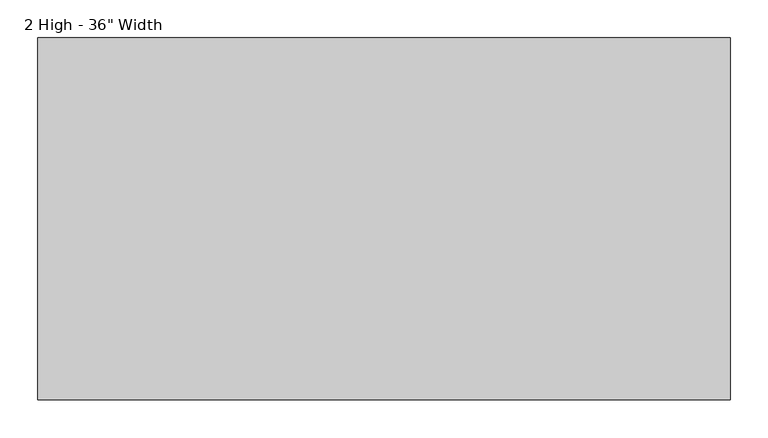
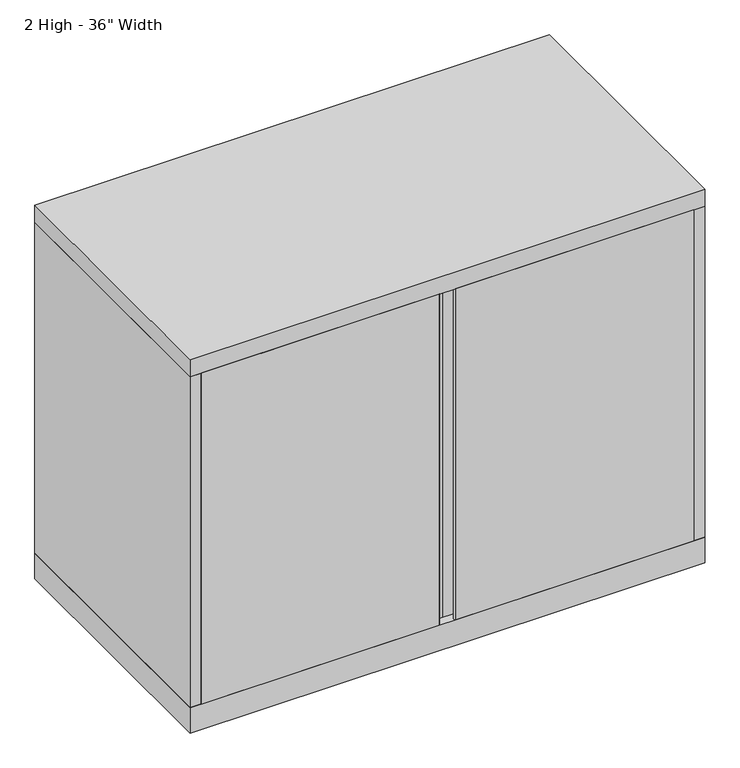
"""IFC4 building model written with IfcOpenShell, lengths in millimetres: furniture geometry."""

import ifcopenshell
import ifcopenshell.guid

model = None  # the IFC model being written
_history = None  # IfcOwnerHistory: only IFC2X3 demands one
_inside = {}  # id of a spatial element -> (the spatial element, [elements in it])
_under = {}  # id of a project, library or spatial element -> (it, [spatial elements below it])
_declared = {}  # id of a project -> (the project, [libraries it declares])
_typed = {}  # id of a type object -> (the type object, [elements of that type])
_made_of = {}  # id of a material, layer set ... -> (it, [elements and type objects made of it])


def new_model(schema):
    """Start an empty IFC model of exactly this schema.

    Asked for "IFC4X3", IfcOpenShell would pick the latest addendum, in which some entities
    have other attributes; the version numbers below select the first issue.
    IFC2X3 requires an IfcOwnerHistory on every rooted entity: one is made here for all.
    """
    global model, _history
    if schema == "IFC4X3":
        model = ifcopenshell.file(schema_version=(4, 3, 0, 0))
    else:
        model = ifcopenshell.file(schema=schema)
    _inside.clear()
    _under.clear()
    _declared.clear()
    _typed.clear()
    _made_of.clear()
    _history = None
    if model.schema == "IFC2X3":
        org = make("IfcOrganization", Name="unknown")
        user = make(
            "IfcPersonAndOrganization",
            ThePerson=make("IfcPerson", FamilyName="unknown"),
            TheOrganization=org,
        )
        app = make(
            "IfcApplication",
            ApplicationDeveloper=org,
            Version="unknown",
            ApplicationFullName="unknown",
            ApplicationIdentifier="unknown",
        )
        _history = make(
            "IfcOwnerHistory",
            OwningUser=user,
            OwningApplication=app,
            ChangeAction="ADDED",
            CreationDate=0,
        )
    return model


def make(cls, **values):
    """One entity of the class cls with the attributes given. An attribute that is None is left unset."""
    return model.create_entity(
        cls, **{name: value for name, value in values.items() if value is not None}
    )


def rooted(cls, **values):
    """An entity with a GlobalId (a new one), such as an element, a storey or a relation."""
    return make(cls, GlobalId=ifcopenshell.guid.new(), OwnerHistory=_history, **values)


def si_unit(unit_type, name, prefix=None):
    """IfcSIUnit, for example si_unit("LENGTHUNIT", "METRE", prefix="MILLI")."""
    return make("IfcSIUnit", UnitType=unit_type, Prefix=prefix, Name=name)


def assignment(units):
    """IfcUnitAssignment: the units of a project."""
    return None if units is None else make("IfcUnitAssignment", Units=units)


def point(xyz):
    """IfcCartesianPoint."""
    return None if xyz is None else make("IfcCartesianPoint", Coordinates=xyz)


def direction(xyz):
    """IfcDirection."""
    return None if xyz is None else make("IfcDirection", DirectionRatios=xyz)


def frame(location, z_axis=None, x_axis=None):
    """IfcAxis2Placement3D, a coordinate frame: its origin and axes. An axis left out is left unset."""
    return make(
        "IfcAxis2Placement3D",
        Location=point(location),
        Axis=direction(z_axis),
        RefDirection=direction(x_axis),
    )


def frame_2d(location, x_axis=None):
    """IfcAxis2Placement2D, a coordinate frame in the plane: its origin and x axis."""
    return make(
        "IfcAxis2Placement2D", Location=point(location), RefDirection=direction(x_axis)
    )


def origin():
    """The frame at (0, 0, 0) with its axes left unset."""
    return frame((0.0, 0.0, 0.0))


def origin_with_axes():
    """The frame at (0, 0, 0) with the z axis (0, 0, 1) and the x axis (1, 0, 0) written out."""
    return frame((0.0, 0.0, 0.0), z_axis=(0.0, 0.0, 1.0), x_axis=(1.0, 0.0, 0.0))


def place(relative_to, where):
    """IfcLocalPlacement: puts the frame where relative to a parent placement (None: the world)."""
    return make(
        "IfcLocalPlacement", PlacementRelTo=relative_to, RelativePlacement=where
    )


def context(
    kind, dimensions, precision=None, world=None, true_north=None, identifier=None
):
    """IfcGeometricRepresentationContext, for example the 3D "Model" context."""
    return make(
        "IfcGeometricRepresentationContext",
        ContextIdentifier=identifier,
        ContextType=kind,
        CoordinateSpaceDimension=dimensions,
        Precision=precision,
        WorldCoordinateSystem=world,
        TrueNorth=true_north,
    )


def project(units=None, contexts=None):
    """IfcProject with its units and contexts."""
    return rooted(
        "IfcProject",
        Name="project",
        RepresentationContexts=contexts,
        UnitsInContext=assignment(units),
    )


def spatial(cls, under=None, at=None, **own):
    """A site, building, storey or space (cls), placed at a placement, below another one or the project."""
    s = rooted(cls, ObjectPlacement=at, **own)
    if under is not None:
        _under.setdefault(under.id(), (under, []))[1].append(s)
    return s


def polyline(points):
    """IfcPolyline through the points."""
    return make("IfcPolyline", Points=[point(p) for p in points])


def circle_curve(where, radius):
    """IfcCircle in the frame where."""
    return make("IfcCircle", Position=where, Radius=radius)


def trimmed(basis, trim1, trim2, sense, master):
    """IfcTrimmedCurve: the piece of a basis curve between two trims."""
    return make(
        "IfcTrimmedCurve",
        BasisCurve=basis,
        Trim1=trim1,
        Trim2=trim2,
        SenseAgreement=sense,
        MasterRepresentation=master,
    )


def segment(curve, same_sense, transition):
    """IfcCompositeCurveSegment."""
    return make(
        "IfcCompositeCurveSegment",
        Transition=transition,
        SameSense=same_sense,
        ParentCurve=curve,
    )


def composite_curve(segments, self_intersect=None):
    """IfcCompositeCurve: segments joined end to end."""
    return make("IfcCompositeCurve", Segments=segments, SelfIntersect=self_intersect)


def outline(outer, holes=None, kind="AREA"):
    """IfcArbitraryClosedProfileDef: a profile drawn as a closed curve; with holes, ...WithVoids."""
    if holes is None:
        return make("IfcArbitraryClosedProfileDef", ProfileType=kind, OuterCurve=outer)
    return make(
        "IfcArbitraryProfileDefWithVoids",
        ProfileType=kind,
        OuterCurve=outer,
        InnerCurves=holes,
    )


def extrude(swept, where, along, depth):
    """IfcExtrudedAreaSolid: the profile swept, set in the frame where, extruded along a direction by depth."""
    return make(
        "IfcExtrudedAreaSolid",
        SweptArea=swept,
        Position=where,
        ExtrudedDirection=direction(along),
        Depth=depth,
    )


def shape(context_of_items, identifier, shape_type, items):
    """IfcShapeRepresentation: the items that make up one representation, for example the "Body"."""
    return make(
        "IfcShapeRepresentation",
        ContextOfItems=context_of_items,
        RepresentationIdentifier=identifier,
        RepresentationType=shape_type,
        Items=items,
    )


def source(mapping_origin, context_of_items, identifier, shape_type, items):
    """IfcRepresentationMap: a shape defined once, which mapped items show again and again."""
    return make(
        "IfcRepresentationMap",
        MappingOrigin=mapping_origin,
        MappedRepresentation=shape(context_of_items, identifier, shape_type, items),
    )


def transform(
    local_origin,
    x_axis=None,
    y_axis=None,
    z_axis=None,
    scale=None,
    scale2=None,
    scale3=None,
    uniform=True,
):
    """IfcCartesianTransformationOperator3D, or its non-uniform kind. x_axis, y_axis, z_axis: its Axis1, 2, 3."""
    if uniform:
        return make(
            "IfcCartesianTransformationOperator3D",
            Axis1=direction(x_axis),
            Axis2=direction(y_axis),
            LocalOrigin=point(local_origin),
            Scale=scale,
            Axis3=direction(z_axis),
        )
    return make(
        "IfcCartesianTransformationOperator3DnonUniform",
        Axis1=direction(x_axis),
        Axis2=direction(y_axis),
        LocalOrigin=point(local_origin),
        Scale=scale,
        Axis3=direction(z_axis),
        Scale2=scale2,
        Scale3=scale3,
    )


def mapped(mapping_source, mapping_target):
    """IfcMappedItem: shows the shape of a source again, moved by a transform."""
    return make(
        "IfcMappedItem", MappingSource=mapping_source, MappingTarget=mapping_target
    )


def made_of(thing, what):
    """Note that an element or type object is made of a material, layer set ...; save() writes the relation."""
    if what is not None:
        _made_of.setdefault(what.id(), (what, []))[1].append(thing)
    return thing


def element(
    cls,
    number,
    at=None,
    inside=None,
    cuts=None,
    type_object=None,
    material=None,
    context=None,
    identifier="Body",
    shape_type=None,
    held_by="IfcProductDefinitionShape",
    body=None,
    shapes=None,
    **own,
):
    """One element of the class cls, such as IfcWall. Its Tag is "e" and its number.

    at: its placement. inside: the storey or other place that contains it. cuts: it is an
    opening in that element (IfcRelVoidsElement). A single representation is given by context,
    identifier, shape_type and body (its items); several are given by shapes. held_by: the class
    of the entity that holds the representations. save() writes the other relations.
    """
    e = rooted(cls, Tag="e%d" % number, ObjectPlacement=at, **own)
    if body is not None:
        shapes = [shape(context, identifier, shape_type, body)]
    if shapes is not None:
        e.Representation = make(held_by, Representations=shapes)
    if inside is not None:
        _inside.setdefault(inside.id(), (inside, []))[1].append(e)
    if cuts is not None:
        rooted(
            "IfcRelVoidsElement", RelatingBuildingElement=cuts, RelatedOpeningElement=e
        )
    if type_object is not None:
        _typed.setdefault(type_object.id(), (type_object, []))[1].append(e)
    return made_of(e, material)


def aggregate(whole, parts):
    """IfcRelAggregates: a whole, such as a stair, and the parts it consists of."""
    return rooted("IfcRelAggregates", RelatingObject=whole, RelatedObjects=parts)


def save(model, path):
    """Write the relations noted so far, then the file.

    IfcRelAggregates (storeys below a building ...), IfcRelContainedInSpatialStructure (elements
    in a storey), IfcRelDefinesByType, IfcRelAssociatesMaterial and IfcRelDeclares: one each for
    every whole, place, type object, material and project.
    """
    for whole, parts in _under.values():
        aggregate(whole, parts)
    for where, things in _inside.values():
        rooted(
            "IfcRelContainedInSpatialStructure",
            RelatedElements=things,
            RelatingStructure=where,
        )
    for kind, things in _typed.values():
        rooted("IfcRelDefinesByType", RelatedObjects=things, RelatingType=kind)
    for what, things in _made_of.values():
        rooted("IfcRelAssociatesMaterial", RelatedObjects=things, RelatingMaterial=what)
    for by, libraries in _declared.values():
        rooted("IfcRelDeclares", RelatingContext=by, RelatedDefinitions=libraries)
    model.write(path)


def furniture_2a13f7a9(model_context):
    return source(origin(), model_context, "Body", "SweptSolid", [
        extrude(outline(composite_curve([segment(polyline([(0.0, -457.2), (0.0, -461.01), (-25.4, -461.01)]), True, "CONTINUOUS"), segment(trimmed(circle_curve(frame_2d((-25.4, -466.0742469)), 5.0642469), [point((-25.4, -461.01))], [point((-25.4, -471.1384938))], True, "CARTESIAN"), True, "CONTINUOUS"), segment(polyline([(-25.4, -471.1384938), (-15.2557531, -471.1384938)]), True, "CONTINUOUS"), segment(trimmed(circle_curve(frame_2d((-15.2557531, -473.6942469)), 2.5557531), [point((-15.2557531, -471.1384938))], [point((-15.2557531, -476.25))], False, "CARTESIAN"), True, "CONTINUOUS"), segment(polyline([(-15.2557531, -476.25), (-436.5625, -476.25), (-436.5625, -457.2), (0.0, -457.2)]), True, "CONTINUOUS")], self_intersect=False)), frame((0.0, 0.0, 47.625), z_axis=(0.0, 0.0, 1.0), x_axis=(1.0, 0.0, 0.0)), (0.0, 0.0, 1.0), 619.125),
        extrude(outline(composite_curve([segment(polyline([(0.0, -457.2), (436.5625, -457.2), (436.5625, -476.25), (15.2557531, -476.25)]), True, "CONTINUOUS"), segment(trimmed(circle_curve(frame_2d((15.2557531, -473.6942469)), 2.5557531), [point((15.2557531, -476.25))], [point((15.2557531, -471.1384938))], False, "CARTESIAN"), True, "CONTINUOUS"), segment(polyline([(15.2557531, -471.1384938), (25.4, -471.1384938)]), True, "CONTINUOUS"), segment(trimmed(circle_curve(frame_2d((25.4, -466.0742469)), 5.0642469), [point((25.4, -471.1384938))], [point((25.4, -461.01))], True, "CARTESIAN"), True, "CONTINUOUS"), segment(polyline([(25.4, -461.01), (0.0, -461.01), (0.0, -457.2)]), True, "CONTINUOUS")], self_intersect=False)), frame((0.0, 0.0, 47.625), z_axis=(0.0, 0.0, 1.0), x_axis=(1.0, 0.0, 0.0)), (0.0, 0.0, 1.0), 619.125),
        extrude(outline(polyline([(436.5625, -19.05), (436.5625, -457.2), (-436.5625, -457.2), (-436.5625, -19.05), (436.5625, -19.05)])), frame((0.0, 0.0, 347.6625), z_axis=(0.0, 0.0, 1.0), x_axis=(1.0, 0.0, 0.0)), (0.0, 0.0, 1.0), 19.05),
        extrude(outline(polyline([(455.6125, 0.0), (455.6125, -476.25), (-455.6125, -476.25), (-455.6125, 0.0), (455.6125, 0.0)])), origin_with_axes(), (0.0, 0.0, 1.0), 47.625),
        extrude(outline(polyline([(455.6125, 0.0), (455.6125, -476.25), (-455.6125, -476.25), (-455.6125, 0.0), (455.6125, 0.0)])), frame((0.0, 0.0, 666.75), z_axis=(0.0, 0.0, 1.0), x_axis=(1.0, 0.0, 0.0)), (0.0, 0.0, 1.0), 31.75),
        extrude(outline(polyline([(455.6125, 0.0), (455.6125, -476.25), (436.5625, -476.25), (436.5625, -19.05), (-436.5625, -19.05), (-436.5625, -476.25), (-455.6125, -476.25), (-455.6125, 0.0), (455.6125, 0.0)])), frame((0.0, 0.0, 47.625), z_axis=(0.0, 0.0, 1.0), x_axis=(1.0, 0.0, 0.0)), (0.0, 0.0, 1.0), 619.125),
    ])


if __name__ == "__main__":
    model = new_model("IFC4")
    model_context = context("Model", 3, world=origin())
    ifc_project = project(units=[si_unit("LENGTHUNIT", "METRE", prefix="MILLI")], contexts=[model_context])
    site = spatial("IfcSite", under=ifc_project)
    building = spatial("IfcBuilding", under=site)
    placement = place(None, origin())
    furniture_shape = furniture_2a13f7a9(model_context)
    element("IfcFurniture", 1, ObjectType="Haworth_XSeries-Storage_Cabinet : 2 High - 36\" Width", at=placement, inside=building, context=model_context, shape_type="MappedRepresentation", body=[
        mapped(furniture_shape, transform((0.0, 0.0, 0.0), x_axis=(1.0, 0.0, 0.0), y_axis=(0.0, 1.0, 0.0), z_axis=(0.0, 0.0, 1.0))),
    ])
    save(model, "model.ifc")
